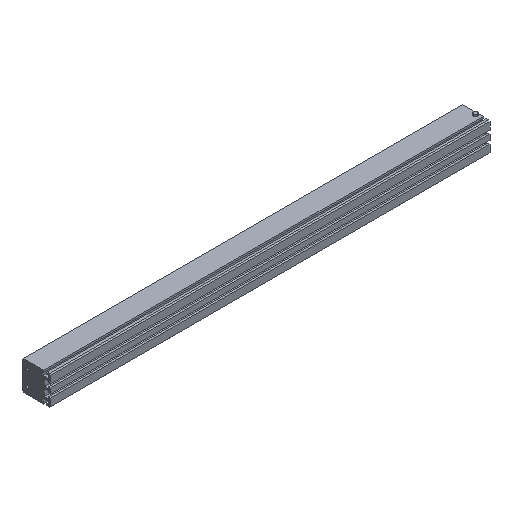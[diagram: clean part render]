
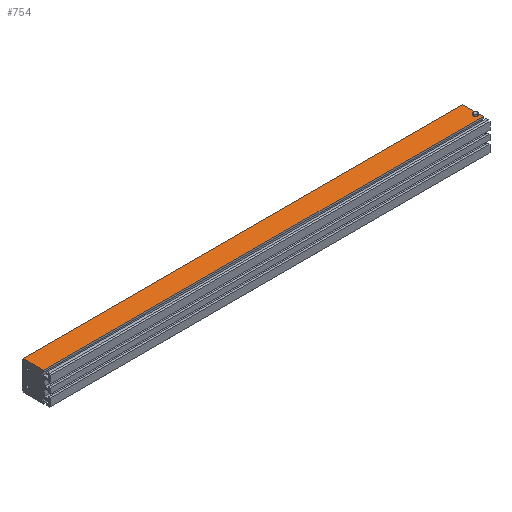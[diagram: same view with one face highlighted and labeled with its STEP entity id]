
A CAD part, isometric view. The second image highlights one B-rep face of the part: STEP entity #754.
In plain terms, the highlighted planar face has unit normal (0, 0, 1).
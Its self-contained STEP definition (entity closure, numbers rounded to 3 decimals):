
#68 = VECTOR ( 'NONE', #1469, 1000. ) ;
#74 = EDGE_CURVE ( 'NONE', #138, #1123, #1087, .T. ) ;
#129 = EDGE_CURVE ( 'NONE', #589, #714, #1344, .T. ) ;
#138 = VERTEX_POINT ( 'NONE', #1285 ) ;
#218 = CARTESIAN_POINT ( 'NONE',  ( 429., 11.392, 0. ) ) ;
#224 = EDGE_CURVE ( 'NONE', #349, #138, #1239, .T. ) ;
#274 = DIRECTION ( 'NONE',  ( 0., 0., 1. ) ) ;
#283 = DIRECTION ( 'NONE',  ( -1., 0., 0. ) ) ;
#309 = AXIS2_PLACEMENT_3D ( 'NONE', #519, #685, #846 ) ;
#312 = ORIENTED_EDGE ( 'NONE', *, *, #224, .T. ) ;
#349 = VERTEX_POINT ( 'NONE', #2017 ) ;
#408 = VECTOR ( 'NONE', #283, 1000. ) ;
#495 = VERTEX_POINT ( 'NONE', #1719 ) ;
#506 = ORIENTED_EDGE ( 'NONE', *, *, #129, .F. ) ;
#519 = CARTESIAN_POINT ( 'NONE',  ( 430., 0., 0. ) ) ;
#564 = CARTESIAN_POINT ( 'NONE',  ( 0., 0., 0. ) ) ;
#589 = VERTEX_POINT ( 'NONE', #647 ) ;
#604 = FACE_OUTER_BOUND ( 'NONE', #773, .T. ) ;
#647 = CARTESIAN_POINT ( 'NONE',  ( 425.3, 11.392, 0. ) ) ;
#685 = DIRECTION ( 'NONE',  ( 0., 0., -1. ) ) ;
#714 = VERTEX_POINT ( 'NONE', #218 ) ;
#754 = ADVANCED_FACE ( 'NONE', ( #1464, #604 ), #1640, .F. ) ;
#773 = EDGE_LOOP ( 'NONE', ( #2024, #1913, #312, #1007 ) ) ;
#796 = AXIS2_PLACEMENT_3D ( 'NONE', #1939, #1613, #1305 ) ;
#809 = EDGE_LOOP ( 'NONE', ( #506, #1337 ) ) ;
#825 = CARTESIAN_POINT ( 'NONE',  ( 430., 6.6, 0. ) ) ;
#846 = DIRECTION ( 'NONE',  ( -1., 0., 0. ) ) ;
#916 = DIRECTION ( 'NONE',  ( -1., 0., 0. ) ) ;
#1005 = DIRECTION ( 'NONE',  ( 0., -1., 0. ) ) ;
#1007 = ORIENTED_EDGE ( 'NONE', *, *, #74, .T. ) ;
#1048 = EDGE_CURVE ( 'NONE', #495, #349, #1333, .T. ) ;
#1087 = LINE ( 'NONE', #1107, #68 ) ;
#1107 = CARTESIAN_POINT ( 'NONE',  ( 0., 6.6, 0. ) ) ;
#1123 = VERTEX_POINT ( 'NONE', #825 ) ;
#1239 = LINE ( 'NONE', #564, #1784 ) ;
#1245 = CIRCLE ( 'NONE', #1893, 1.85 ) ;
#1285 = CARTESIAN_POINT ( 'NONE',  ( 0., 6.6, 0. ) ) ;
#1305 = DIRECTION ( 'NONE',  ( -1., 0., 0. ) ) ;
#1333 = LINE ( 'NONE', #1711, #408 ) ;
#1337 = ORIENTED_EDGE ( 'NONE', *, *, #1603, .F. ) ;
#1344 = CIRCLE ( 'NONE', #796, 1.85 ) ;
#1378 = CARTESIAN_POINT ( 'NONE',  ( 427.15, 11.392, 0. ) ) ;
#1464 = FACE_BOUND ( 'NONE', #809, .T. ) ;
#1469 = DIRECTION ( 'NONE',  ( 1., 0., 0. ) ) ;
#1501 = DIRECTION ( 'NONE',  ( 0., -1., 0. ) ) ;
#1603 = EDGE_CURVE ( 'NONE', #714, #589, #1245, .T. ) ;
#1613 = DIRECTION ( 'NONE',  ( 0., 0., 1. ) ) ;
#1640 = PLANE ( 'NONE',  #309 ) ;
#1644 = CARTESIAN_POINT ( 'NONE',  ( 430., 0., 0. ) ) ;
#1711 = CARTESIAN_POINT ( 'NONE',  ( 430., 26.7, 0. ) ) ;
#1715 = VECTOR ( 'NONE', #1005, 1000. ) ;
#1719 = CARTESIAN_POINT ( 'NONE',  ( 430., 26.7, 0. ) ) ;
#1784 = VECTOR ( 'NONE', #1501, 1000. ) ;
#1863 = LINE ( 'NONE', #1644, #1715 ) ;
#1893 = AXIS2_PLACEMENT_3D ( 'NONE', #1378, #274, #916 ) ;
#1913 = ORIENTED_EDGE ( 'NONE', *, *, #1048, .T. ) ;
#1939 = CARTESIAN_POINT ( 'NONE',  ( 427.15, 11.392, 0. ) ) ;
#2017 = CARTESIAN_POINT ( 'NONE',  ( 0., 26.7, 0. ) ) ;
#2021 = EDGE_CURVE ( 'NONE', #495, #1123, #1863, .T. ) ;
#2024 = ORIENTED_EDGE ( 'NONE', *, *, #2021, .F. ) ;
